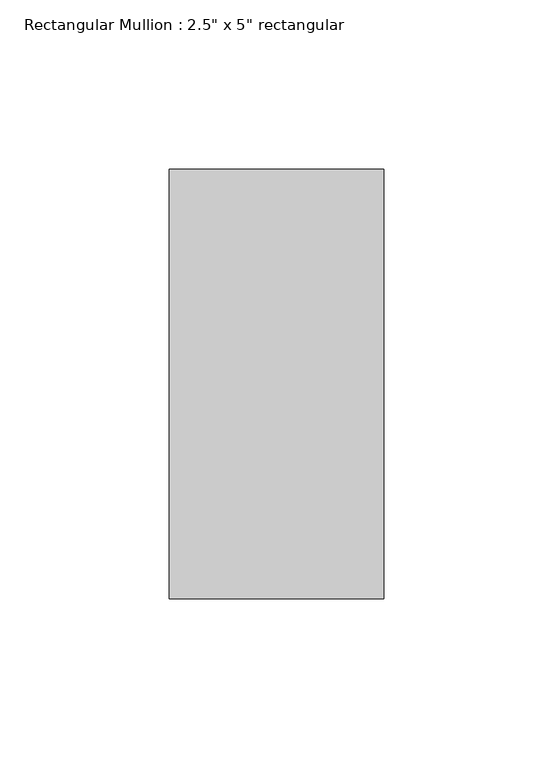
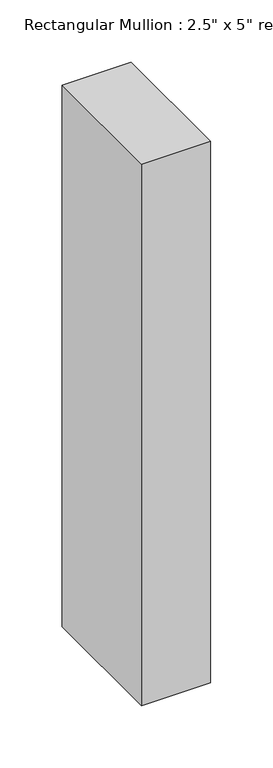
"""IFC4 building model written with IfcOpenShell, lengths in millimetres: member geometry."""

from ifc_helpers import new_model, si_unit, frame, origin, place, context, project, spatial, polyline, outline, extrude, source, transform, mapped, element, save


def member_020991e8(model_context):
    return source(origin(), model_context, "Body", "SweptSolid", [
        extrude(outline(polyline([(0.0, 63.5), (0.0, -63.5), (-63.5, -63.5), (-63.5, 63.5), (0.0, 63.5)])), frame((0.0, 0.0, -528.960497), z_axis=(0.0, 0.0, 1.0), x_axis=(1.0, 0.0, 0.0)), (0.0, 0.0, 1.0), 528.960497),
    ])


if __name__ == "__main__":
    model = new_model("IFC4")
    model_context = context("Model", 3, world=origin())
    ifc_project = project(units=[si_unit("LENGTHUNIT", "METRE", prefix="MILLI")], contexts=[model_context])
    site = spatial("IfcSite", under=ifc_project)
    building = spatial("IfcBuilding", under=site)
    placement = place(None, origin())
    member_shape = member_020991e8(model_context)
    element("IfcMember", 1, ObjectType="Rectangular Mullion : 2.5\" x 5\" rectangular", at=placement, inside=building, context=model_context, shape_type="MappedRepresentation", body=[
        mapped(member_shape, transform((0.0, 0.0, 0.0), x_axis=(1.0, 0.0, 0.0), y_axis=(0.0, 1.0, 0.0), z_axis=(0.0, 0.0, 1.0))),
    ])
    save(model, "model.ifc")
